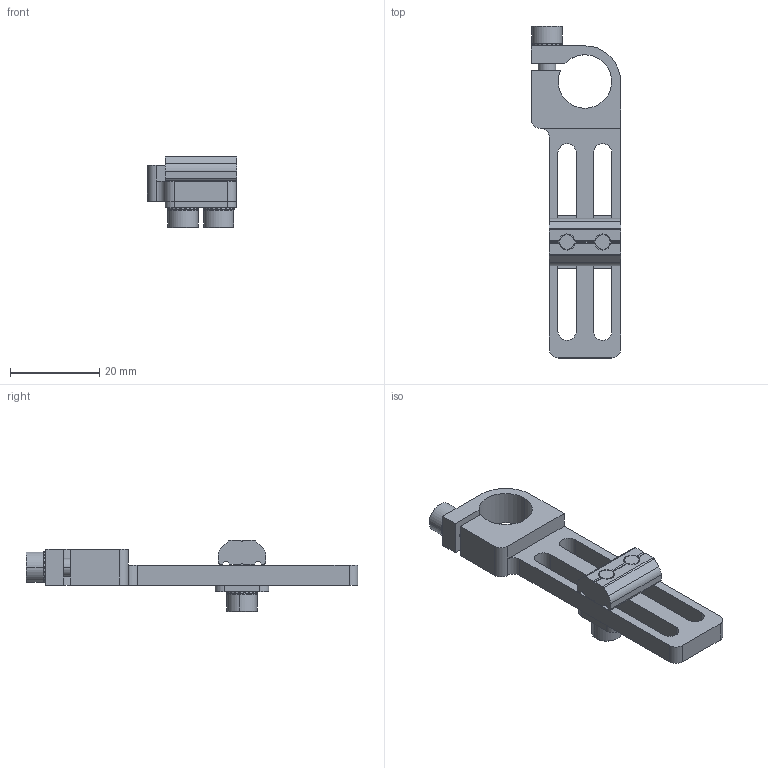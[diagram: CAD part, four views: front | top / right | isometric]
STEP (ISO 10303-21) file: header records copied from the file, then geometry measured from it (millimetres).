
FILE_DESCRIPTION (( 'STEP AP214' ), '1' );
FILE_NAME ('SMBE1-1240T.STEP', '2022-12-14T02:47:02', ( '' ), ( '' ), 'SwSTEP 2.0', 'SolidWorks 2018', '' );
FILE_SCHEMA (( 'AUTOMOTIVE_DESIGN' ));
Length unit declared in the file: millimetre
Products named in the file (1): SMBE1-1240T
Bounding box: 20 x 74.45 x 16 mm (x, y, z)
Volume: 5575.5 mm3; surface area: 6123.4 mm2
Topology: 9 solids, 9 shells, 649 faces, 1883 edges, 1249 vertices
Faces by surface type: plane 561, cylinder 70, cone 18
Entity records: 28932 total; most frequent: CARTESIAN_POINT 3974, DIRECTION 3781, ORIENTED_EDGE 3766, EDGE_CURVE 1883, AXIS2_PLACEMENT_3D 1280, VERTEX_POINT 1249, VECTOR 1221, LINE 1221
